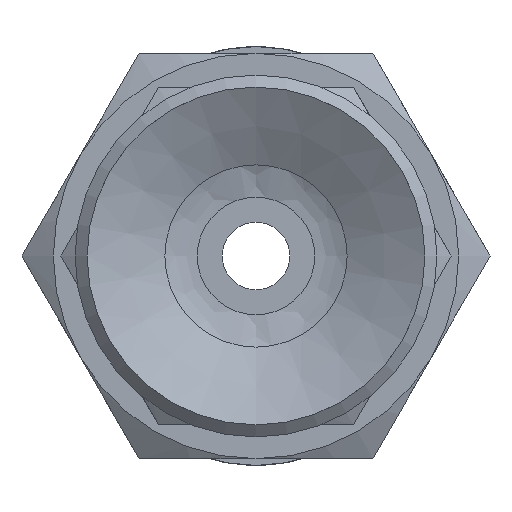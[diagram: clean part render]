
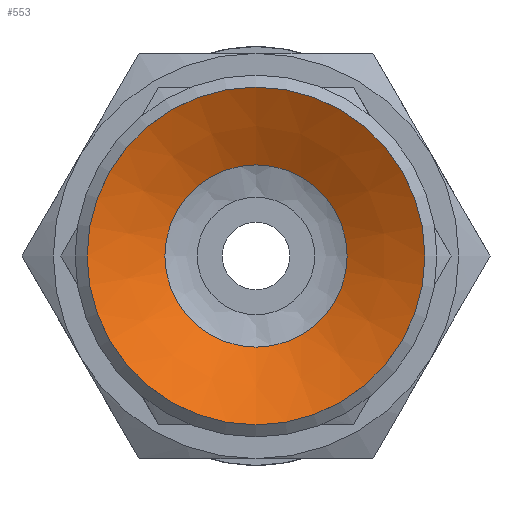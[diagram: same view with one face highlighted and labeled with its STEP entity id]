
A CAD part, front view. The second image highlights one B-rep face of the part: STEP entity #553.
In plain terms, the highlighted conical face has half-angle 61.39 degrees and reference radius 2.25 mm.
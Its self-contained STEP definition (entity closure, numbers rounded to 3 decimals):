
#553=ADVANCED_FACE('',(#849,#850),#851,.F.);
#849=FACE_BOUND('',#1222,.T.);
#850=FACE_OUTER_BOUND('',#1223,.T.);
#851=CONICAL_SURFACE('',#1224,2.25,1.071);
#1222=EDGE_LOOP('',(#2245));
#1223=EDGE_LOOP('',(#2246));
#1224=AXIS2_PLACEMENT_3D('',#2247,#2248,#2249);
#2245=ORIENTED_EDGE('',*,*,#2737,.T.);
#2246=ORIENTED_EDGE('',*,*,#2732,.T.);
#2247=CARTESIAN_POINT('',(0.0,1.5,0.0));
#2248=DIRECTION('',(-0.0,-1.0,0.));
#2249=DIRECTION('',(0.0,0.,-1.0));
#2732=EDGE_CURVE('',#3114,#3114,#3115,.T.);
#2737=EDGE_CURVE('',#3124,#3124,#3125,.T.);
#3114=VERTEX_POINT('',#3908);
#3115=CIRCLE('',#3909,5.);
#3124=VERTEX_POINT('',#3918);
#3125=CIRCLE('',#3919,2.698);
#3908=CARTESIAN_POINT('',(0.0,0.,-5.));
#3909=AXIS2_PLACEMENT_3D('',#4637,#4638,#4639);
#3918=CARTESIAN_POINT('',(0.0,1.256,-2.698));
#3919=AXIS2_PLACEMENT_3D('',#4652,#4653,#4654);
#4637=CARTESIAN_POINT('',(0.0,0.0,0.0));
#4638=DIRECTION('',(0.0,-1.0,0.));
#4639=DIRECTION('',(0.0,0.,-1.0));
#4652=CARTESIAN_POINT('',(0.0,1.256,0.0));
#4653=DIRECTION('',(0.0,1.0,0.));
#4654=DIRECTION('',(0.0,0.,-1.0));
